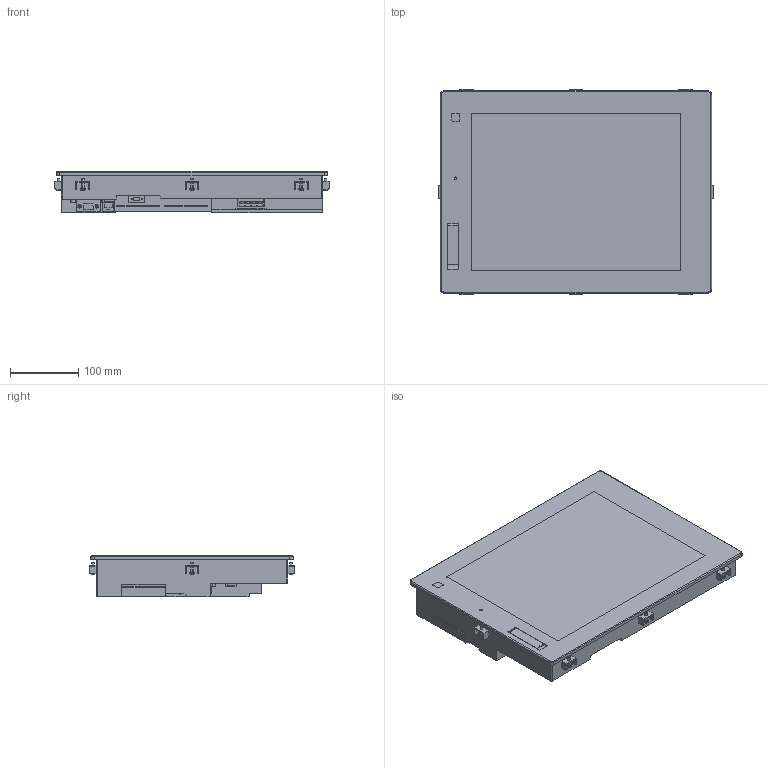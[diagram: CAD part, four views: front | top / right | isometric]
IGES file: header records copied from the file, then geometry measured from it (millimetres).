
Start section:  PTC IGES file: gt1695m_a.igs
Global section: file name: gt1695m_a.igs; native system: Pro/ENGINEER by Parametric Technology Corporation; preprocessor: 2007390; author: XA33111; organization: Unknown; date: 20100205.132930; units: millimetre
Bounding box: 402 x 301 x 61 mm (x, y, z)
Volume: 5840506.3 mm3; surface area: 358104.4 mm2
Topology: 1 solids, 3 shells, 575 faces, 1499 edges, 998 vertices
Faces by surface type: bspline 351, revolution 223, extrusion 1
